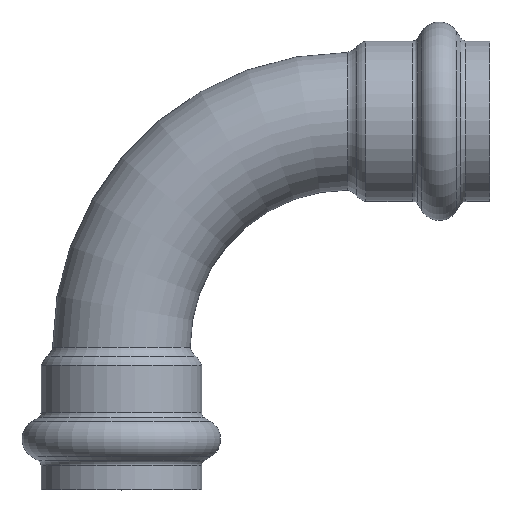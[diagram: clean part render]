
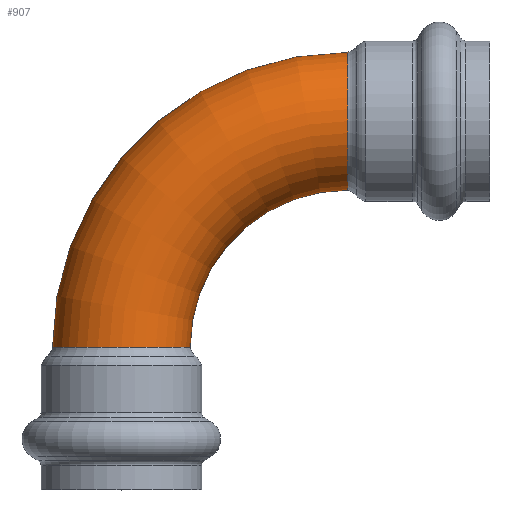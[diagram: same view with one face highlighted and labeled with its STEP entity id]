
A CAD part, top view. The second image highlights one B-rep face of the part: STEP entity #907.
In plain terms, the highlighted toroidal (fillet/blend) face has major radius 54.877 mm and minor radius 16.701 mm.
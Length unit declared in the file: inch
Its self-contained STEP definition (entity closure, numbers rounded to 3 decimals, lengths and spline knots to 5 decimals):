
#125=FACE_OUTER_BOUND('',#164,.T.);
#164=EDGE_LOOP('',(#706,#707,#708,#709,#710,#711,#712,#713));
#188=CIRCLE('',#952,0.6575);
#189=CIRCLE('',#953,0.6575);
#190=CIRCLE('',#954,0.6575);
#241=CIRCLE('',#1022,0.6575);
#242=CIRCLE('',#1023,0.6575);
#246=CIRCLE('',#1027,0.6575);
#256=CIRCLE('',#1041,1.503);
#308=VERTEX_POINT('',#1496);
#309=VERTEX_POINT('',#1498);
#310=VERTEX_POINT('',#1500);
#355=VERTEX_POINT('',#1623);
#356=VERTEX_POINT('',#1624);
#357=VERTEX_POINT('',#1626);
#414=EDGE_CURVE('',#309,#308,#188,.T.);
#415=EDGE_CURVE('',#310,#309,#189,.T.);
#416=EDGE_CURVE('',#308,#310,#190,.T.);
#476=EDGE_CURVE('',#355,#356,#241,.T.);
#477=EDGE_CURVE('',#357,#355,#242,.T.);
#481=EDGE_CURVE('',#356,#357,#246,.T.);
#492=EDGE_CURVE('',#309,#356,#256,.T.);
#706=ORIENTED_EDGE('',*,*,#415,.T.);
#707=ORIENTED_EDGE('',*,*,#492,.T.);
#708=ORIENTED_EDGE('',*,*,#481,.T.);
#709=ORIENTED_EDGE('',*,*,#477,.T.);
#710=ORIENTED_EDGE('',*,*,#476,.T.);
#711=ORIENTED_EDGE('',*,*,#492,.F.);
#712=ORIENTED_EDGE('',*,*,#414,.T.);
#713=ORIENTED_EDGE('',*,*,#416,.T.);
#838=TOROIDAL_SURFACE('',#1040,2.1605,0.6575);
#907=ADVANCED_FACE('',(#125),#838,.T.);
#952=AXIS2_PLACEMENT_3D('',#1499,#1136,#1137);
#953=AXIS2_PLACEMENT_3D('',#1501,#1138,#1139);
#954=AXIS2_PLACEMENT_3D('',#1502,#1140,#1141);
#1022=AXIS2_PLACEMENT_3D('',#1625,#1285,#1286);
#1023=AXIS2_PLACEMENT_3D('',#1627,#1287,#1288);
#1027=AXIS2_PLACEMENT_3D('',#1633,#1295,#1296);
#1040=AXIS2_PLACEMENT_3D('',#1654,#1322,#1323);
#1041=AXIS2_PLACEMENT_3D('',#1655,#1324,#1325);
#1136=DIRECTION('center_axis',(0.,1.,0.));
#1137=DIRECTION('ref_axis',(1.,0.,0.));
#1138=DIRECTION('center_axis',(0.,1.,0.));
#1139=DIRECTION('ref_axis',(1.,0.,0.));
#1140=DIRECTION('center_axis',(0.,1.,0.));
#1141=DIRECTION('ref_axis',(1.,0.,0.));
#1285=DIRECTION('center_axis',(-1.,0.,0.));
#1286=DIRECTION('ref_axis',(0.,-1.,0.));
#1287=DIRECTION('center_axis',(-1.,0.,0.));
#1288=DIRECTION('ref_axis',(0.,-1.,0.));
#1295=DIRECTION('center_axis',(-1.,0.,0.));
#1296=DIRECTION('ref_axis',(0.,-1.,0.));
#1322=DIRECTION('center_axis',(0.,0.,1.));
#1323=DIRECTION('ref_axis',(1.,0.,0.));
#1324=DIRECTION('center_axis',(0.,0.,-1.));
#1325=DIRECTION('ref_axis',(1.,0.,0.));
#1496=CARTESIAN_POINT('',(0.,-2.1605,-0.6575));
#1498=CARTESIAN_POINT('',(0.6575,-2.1605,0.));
#1499=CARTESIAN_POINT('Origin',(0.,-2.1605,0.));
#1500=CARTESIAN_POINT('',(-0.6575,-2.1605,0.));
#1501=CARTESIAN_POINT('Origin',(0.,-2.1605,0.));
#1502=CARTESIAN_POINT('Origin',(0.,-2.1605,0.));
#1623=CARTESIAN_POINT('',(2.1605,0.6575,0.));
#1624=CARTESIAN_POINT('',(2.1605,-0.6575,0.));
#1625=CARTESIAN_POINT('Origin',(2.1605,0.,0.));
#1626=CARTESIAN_POINT('',(2.1605,0.,0.6575));
#1627=CARTESIAN_POINT('Origin',(2.1605,0.,0.));
#1633=CARTESIAN_POINT('Origin',(2.1605,0.,0.));
#1654=CARTESIAN_POINT('Origin',(2.1605,-2.1605,0.));
#1655=CARTESIAN_POINT('Origin',(2.1605,-2.1605,0.));
